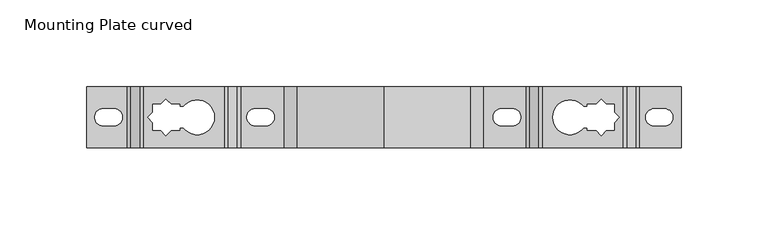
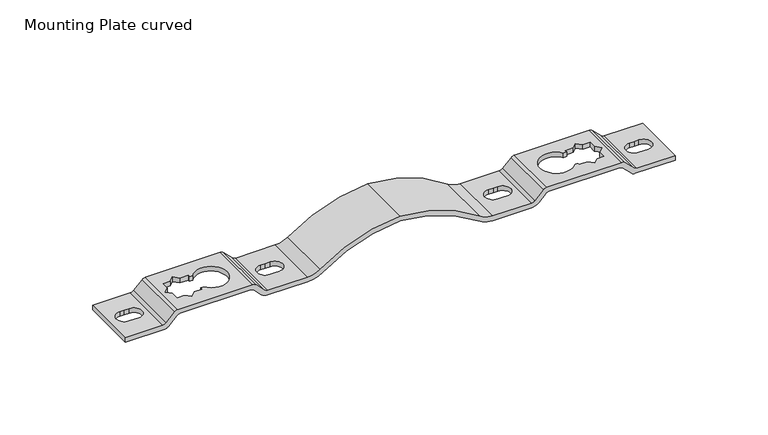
"""IFC4 building model written with IfcOpenShell, lengths in millimetres: valve geometry, Mounting Plate curved : Superpipe Mounting Plate - 250 mm curved."""

from ifc_helpers import new_model, si_unit, frame, origin, place, context, project, spatial, polyline, circle_curve, source, transform, mapped, element, save
from ifc_brep_helpers import plane_surface, cylinder_surface, revolved_surface, advanced_brep


def mounting_plate_curved_e86a9517(model_context):
    return source(origin(), model_context, "Body", "AdvancedBrep", [
        advanced_brep(
        [(0.0, 0.0, 3.0), (0.0, 0.0, 0.0), (24.5, 0.0, 0.0), (26.6213203, 0.0, 0.8786797), (31.863961, 0.0, 6.1213203), (33.9852814, 0.0, 7.0), (78.0147186, 0.0, 7.0), (80.136039, 0.0, 6.1213203), (84.5, 0.0, 1.7573593), (88.7426407, 0.0, 0.0), (113.5579962, 0.0, 0.0), (122.9363512, 0.0, 3.0367266), (171.0, 0.0, 19.9960509), (219.0636488, 0.0, 3.0367266), (228.4420038, 0.0, 0.0), (252.7573593, 0.0, 0.0), (257.0, 0.0, 1.7573593), (261.363961, 0.0, 6.1213203), (263.4852814, 0.0, 7.0), (307.5147186, 0.0, 7.0), (309.636039, 0.0, 6.1213203), (314.8786797, 0.0, 0.8786797), (317.0, 0.0, 0.0), (342.0, 0.0, 0.0), (342.0, 0.0, 3.0), (318.2426407, 0.0, 3.0), (316.1213203, 0.0, 3.8786797), (310.8786797, 0.0, 9.1213203), (308.7573593, 0.0, 10.0), (262.2426407, 0.0, 10.0), (260.1213203, 0.0, 9.1213203), (254.8786797, 0.0, 3.8786797), (252.7573593, 0.0, 3.0), (228.4420038, 0.0, 3.0), (220.8220904, 0.0, 5.4673403), (171.0, 0.0, 23.0), (121.1779096, 0.0, 5.4673403), (113.5579962, 0.0, 3.0), (88.7426407, 0.0, 3.0), (86.6213203, 0.0, 3.8786797), (81.3786797, 0.0, 9.1213203), (79.2573593, 0.0, 10.0), (32.7426407, 0.0, 10.0), (30.6213203, 0.0, 9.1213203), (25.3786797, 0.0, 3.8786797), (23.2573593, 0.0, 3.0), (0.0, 35.0, 3.0), (23.2573593, 35.0, 3.0), (25.3786797, 35.0, 3.8786797), (30.6213203, 35.0, 9.1213203), (32.7426407, 35.0, 10.0), (79.2573593, 35.0, 10.0), (81.3786797, 35.0, 9.1213203), (86.6213203, 35.0, 3.8786797), (88.7426407, 35.0, 3.0), (113.5579962, 35.0, 3.0), (121.1779096, 35.0, 5.4673403), (171.0, 35.0, 23.0), (220.8220904, 35.0, 5.4673403), (228.4420038, 35.0, 3.0), (252.7573593, 35.0, 3.0), (254.8786797, 35.0, 3.8786797), (260.1213203, 35.0, 9.1213203), (262.2426407, 35.0, 10.0), (308.7573593, 35.0, 10.0), (310.8786797, 35.0, 9.1213203), (316.1213203, 35.0, 3.8786797), (318.2426407, 35.0, 3.0), (342.0, 35.0, 3.0), (342.0, 35.0, 0.0), (317.0, 35.0, 0.0), (314.8786797, 35.0, 0.8786797), (309.636039, 35.0, 6.1213203), (307.5147186, 35.0, 7.0), (263.4852814, 35.0, 7.0), (261.363961, 35.0, 6.1213203), (257.0, 35.0, 1.7573593), (252.7573593, 35.0, 0.0), (228.4420038, 35.0, 0.0), (219.0636488, 35.0, 3.0367266), (171.0, 35.0, 19.9960509), (122.9363512, 35.0, 3.0367266), (113.5579962, 35.0, 0.0), (88.7426407, 35.0, 0.0), (84.5, 35.0, 1.7573593), (80.136039, 35.0, 6.1213203), (78.0147186, 35.0, 7.0), (33.9852814, 35.0, 7.0), (31.863961, 35.0, 6.1213203), (26.6213203, 35.0, 0.8786797), (24.5, 35.0, 0.0), (0.0, 35.0, 0.0), (9.4921718, 22.5347729, 0.0), (9.4921718, 12.5504293, 0.0), (12.4921718, 12.5504293, 0.0), (15.4921718, 12.5504293, 0.0), (15.4921718, 22.5347729, 0.0), (12.4921718, 22.5347729, 0.0), (38.0, 25.0, 7.0), (38.0, 20.5, 7.0), (35.0, 17.5, 7.0), (38.0, 14.5, 7.0), (38.0, 9.9308526, 7.0), (42.4308572, 9.9308526, 7.0), (45.4308572, 6.9652271, 7.0), (48.4308572, 10.0, 7.0), (53.4308572, 10.0, 7.0), (53.4308572, 11.5, 7.0), (55.4343797, 11.5, 7.0), (55.4343797, 23.5, 7.0), (53.4308572, 23.5, 7.0), (53.4308572, 25.0, 7.0), (48.4308572, 25.0, 7.0), (45.4308572, 27.9652271, 7.0), (42.5, 25.0, 7.0), (97.0, 22.5347729, 0.0), (97.0, 12.6008585, 0.0), (100.0, 12.6008585, 0.0), (103.0330428, 12.6008585, 0.0), (103.0330428, 22.5347729, 0.0), (100.0, 22.5347729, 0.0), (244.75, 12.5, 0.0), (244.75, 22.5, 0.0), (241.75, 22.5, 0.0), (238.75, 22.5, 0.0), (238.75, 12.5, 0.0), (241.75, 12.5, 0.0), (303.4573426, 20.5, 7.0), (303.4573426, 25.0, 7.0), (298.9573426, 25.0, 7.0), (296.0264854, 27.9652271, 7.0), (293.0264854, 25.0, 7.0), (288.0264854, 25.0, 7.0), (288.0264854, 23.5, 7.0), (286.022963, 23.5, 7.0), (286.022963, 11.5, 7.0), (288.0264854, 11.5, 7.0), (288.0264854, 10.0, 7.0), (293.0264854, 10.0, 7.0), (296.0264854, 6.9652271, 7.0), (299.0264854, 9.9308526, 7.0), (303.4573426, 9.9308526, 7.0), (303.4573426, 14.5, 7.0), (306.4573426, 17.5, 7.0), (332.4243561, 12.5504293, 0.0), (332.4243561, 22.3991415, 0.0), (329.4243561, 22.3991415, 0.0), (326.4243561, 22.3991415, 0.0), (326.4243561, 12.5504293, 0.0), (329.4243561, 12.5504293, 0.0), (332.4243561, 22.3991415, 3.0), (332.4243561, 12.5504293, 3.0), (329.4243561, 12.5504293, 3.0), (326.4243561, 12.5504293, 3.0), (326.4243561, 22.3991415, 3.0), (329.4243561, 22.3991415, 3.0), (303.4573426, 25.0, 10.0), (303.4573426, 20.5, 10.0), (306.4573426, 17.5, 10.0), (303.4573426, 14.5, 10.0), (303.4573426, 9.9308526, 10.0), (299.0264854, 9.9308526, 10.0), (296.0264854, 6.9652271, 10.0), (293.0264854, 10.0, 10.0), (288.0264854, 10.0, 10.0), (288.0264854, 11.5, 10.0), (286.022963, 11.5, 10.0), (286.022963, 23.5, 10.0), (288.0264854, 23.5, 10.0), (288.0264854, 25.0, 10.0), (293.0264854, 25.0, 10.0), (296.0264854, 27.9652271, 10.0), (298.9573426, 25.0, 10.0), (244.75, 22.5, 3.0), (244.75, 12.5, 3.0), (241.75, 12.5, 3.0), (238.75, 12.5, 3.0), (238.75, 22.5, 3.0), (241.75, 22.5, 3.0), (97.0, 12.6008585, 3.0), (97.0, 22.5347729, 3.0), (100.0, 22.5347729, 3.0), (103.0330428, 22.5347729, 3.0), (103.0330428, 12.6008585, 3.0), (100.0, 12.6008585, 3.0), (38.0, 20.5, 10.0), (38.0, 25.0, 10.0), (42.5, 25.0, 10.0), (45.4308572, 27.9652271, 10.0), (48.4308572, 25.0, 10.0), (53.4308572, 25.0, 10.0), (53.4308572, 23.5, 10.0), (55.4343797, 23.5, 10.0), (55.4343797, 11.5, 10.0), (53.4308572, 11.5, 10.0), (53.4308572, 10.0, 10.0), (48.4308572, 10.0, 10.0), (45.4308572, 6.9652271, 10.0), (42.4308572, 9.9308526, 10.0), (38.0, 9.9308526, 10.0), (38.0, 14.5, 10.0), (35.0, 17.5, 10.0), (9.4921718, 12.5504293, 3.0), (9.4921718, 22.5347729, 3.0), (12.4921718, 22.5347729, 3.0), (15.4921718, 22.5347729, 3.0), (15.4921718, 12.5504293, 3.0), (12.4921718, 12.5504293, 3.0)],
        [
            (0, 1),
            (1, 2),
            (2, 3, circle_curve(frame((24.5, 0.0, 3.0), z_axis=(0.0, -1.0, 0.0), x_axis=(1.0, 0.0, 0.0)), 3.0)),
            (3, 4),
            (4, 5, circle_curve(frame((33.9852814, 0.0, 4.0), z_axis=(0.0, 1.0, 0.0), x_axis=(1.0, 0.0, 0.0)), 3.0)),
            (5, 6),
            (6, 7, circle_curve(frame((78.0147186, 0.0, 4.0), z_axis=(0.0, 1.0, 0.0), x_axis=(1.0, 0.0, 0.0)), 3.0)),
            (7, 8),
            (8, 9, circle_curve(frame((88.7426407, 0.0, 6.0), z_axis=(0.0, -1.0, 0.0), x_axis=(1.0, 0.0, 0.0)), 6.0)),
            (9, 10),
            (10, 11, circle_curve(frame((113.5579962, 0.0, 16.0), z_axis=(0.0, -1.0, 0.0), x_axis=(1.0, 0.0, 0.0)), 16.0)),
            (11, 12, circle_curve(frame((175.689598, 0.0, -69.8816864), z_axis=(0.0, 1.0, 0.0), x_axis=(1.0, 0.0, 0.0)), 90.0)),
            (12, 13, circle_curve(frame((166.310402, 0.0, -69.8816864), z_axis=(0.0, 1.0, 0.0), x_axis=(1.0, 0.0, 0.0)), 90.0)),
            (13, 14, circle_curve(frame((228.4420038, 0.0, 16.0), z_axis=(0.0, -1.0, 0.0), x_axis=(1.0, 0.0, 0.0)), 16.0)),
            (14, 15),
            (15, 16, circle_curve(frame((252.7573593, 0.0, 6.0), z_axis=(0.0, -1.0, 0.0), x_axis=(1.0, 0.0, 0.0)), 6.0)),
            (16, 17),
            (17, 18, circle_curve(frame((263.4852814, 0.0, 4.0), z_axis=(0.0, 1.0, 0.0), x_axis=(1.0, 0.0, 0.0)), 3.0)),
            (18, 19),
            (19, 20, circle_curve(frame((307.5147186, 0.0, 4.0), z_axis=(0.0, 1.0, 0.0), x_axis=(1.0, 0.0, 0.0)), 3.0)),
            (20, 21),
            (21, 22, circle_curve(frame((317.0, 0.0, 3.0), z_axis=(0.0, -1.0, 0.0), x_axis=(1.0, 0.0, 0.0)), 3.0)),
            (22, 23),
            (23, 24),
            (24, 25),
            (25, 26, circle_curve(frame((318.2426407, 0.0, 6.0), z_axis=(0.0, 1.0, 0.0), x_axis=(1.0, 0.0, 0.0)), 3.0)),
            (26, 27),
            (27, 28, circle_curve(frame((308.7573593, 0.0, 7.0), z_axis=(0.0, -1.0, 0.0), x_axis=(1.0, 0.0, 0.0)), 3.0)),
            (28, 29),
            (29, 30, circle_curve(frame((262.2426407, 0.0, 7.0), z_axis=(0.0, -1.0, 0.0), x_axis=(1.0, 0.0, 0.0)), 3.0)),
            (30, 31),
            (31, 32, circle_curve(frame((252.7573593, 0.0, 6.0), z_axis=(0.0, 1.0, 0.0), x_axis=(1.0, 0.0, 0.0)), 3.0)),
            (32, 33),
            (33, 34, circle_curve(frame((228.4420038, 0.0, 16.0), z_axis=(0.0, 1.0, 0.0), x_axis=(1.0, 0.0, 0.0)), 13.0)),
            (34, 35, circle_curve(frame((166.310402, 0.0, -69.8816864), z_axis=(0.0, -1.0, 0.0), x_axis=(1.0, 0.0, 0.0)), 93.0)),
            (35, 36, circle_curve(frame((175.689598, 0.0, -69.8816864), z_axis=(0.0, -1.0, 0.0), x_axis=(1.0, 0.0, 0.0)), 93.0)),
            (36, 37, circle_curve(frame((113.5579962, 0.0, 16.0), z_axis=(0.0, 1.0, 0.0), x_axis=(1.0, 0.0, 0.0)), 13.0)),
            (37, 38),
            (38, 39, circle_curve(frame((88.7426407, 0.0, 6.0), z_axis=(0.0, 1.0, 0.0), x_axis=(1.0, 0.0, 0.0)), 3.0)),
            (39, 40),
            (40, 41, circle_curve(frame((79.2573593, 0.0, 7.0), z_axis=(0.0, -1.0, 0.0), x_axis=(1.0, 0.0, 0.0)), 3.0)),
            (41, 42),
            (42, 43, circle_curve(frame((32.7426407, 0.0, 7.0), z_axis=(0.0, -1.0, 0.0), x_axis=(1.0, 0.0, 0.0)), 3.0)),
            (43, 44),
            (44, 45, circle_curve(frame((23.2573593, 0.0, 6.0), z_axis=(0.0, 1.0, 0.0), x_axis=(1.0, 0.0, 0.0)), 3.0)),
            (45, 0),
            (46, 47),
            (47, 48, circle_curve(frame((23.2573593, 35.0, 6.0), z_axis=(0.0, -1.0, 0.0), x_axis=(1.0, 0.0, 0.0)), 3.0)),
            (48, 49),
            (49, 50, circle_curve(frame((32.7426407, 35.0, 7.0), z_axis=(0.0, 1.0, 0.0), x_axis=(1.0, 0.0, 0.0)), 3.0)),
            (50, 51),
            (51, 52, circle_curve(frame((79.2573593, 35.0, 7.0), z_axis=(0.0, 1.0, 0.0), x_axis=(1.0, 0.0, 0.0)), 3.0)),
            (52, 53),
            (53, 54, circle_curve(frame((88.7426407, 35.0, 6.0), z_axis=(0.0, -1.0, 0.0), x_axis=(1.0, 0.0, 0.0)), 3.0)),
            (54, 55),
            (55, 56, circle_curve(frame((113.5579962, 35.0, 16.0), z_axis=(0.0, -1.0, 0.0), x_axis=(1.0, 0.0, 0.0)), 13.0)),
            (56, 57, circle_curve(frame((175.689598, 35.0, -69.8816864), z_axis=(0.0, 1.0, 0.0), x_axis=(1.0, 0.0, 0.0)), 93.0)),
            (57, 58, circle_curve(frame((166.310402, 35.0, -69.8816864), z_axis=(0.0, 1.0, 0.0), x_axis=(1.0, 0.0, 0.0)), 93.0)),
            (58, 59, circle_curve(frame((228.4420038, 35.0, 16.0), z_axis=(0.0, -1.0, 0.0), x_axis=(1.0, 0.0, 0.0)), 13.0)),
            (59, 60),
            (60, 61, circle_curve(frame((252.7573593, 35.0, 6.0), z_axis=(0.0, -1.0, 0.0), x_axis=(1.0, 0.0, 0.0)), 3.0)),
            (61, 62),
            (62, 63, circle_curve(frame((262.2426407, 35.0, 7.0), z_axis=(0.0, 1.0, 0.0), x_axis=(1.0, 0.0, 0.0)), 3.0)),
            (63, 64),
            (64, 65, circle_curve(frame((308.7573593, 35.0, 7.0), z_axis=(0.0, 1.0, 0.0), x_axis=(1.0, 0.0, 0.0)), 3.0)),
            (65, 66),
            (66, 67, circle_curve(frame((318.2426407, 35.0, 6.0), z_axis=(0.0, -1.0, 0.0), x_axis=(1.0, 0.0, 0.0)), 3.0)),
            (67, 68),
            (68, 69),
            (69, 70),
            (70, 71, circle_curve(frame((317.0, 35.0, 3.0), z_axis=(0.0, 1.0, 0.0), x_axis=(1.0, 0.0, 0.0)), 3.0)),
            (71, 72),
            (72, 73, circle_curve(frame((307.5147186, 35.0, 4.0), z_axis=(0.0, -1.0, 0.0), x_axis=(1.0, 0.0, 0.0)), 3.0)),
            (73, 74),
            (74, 75, circle_curve(frame((263.4852814, 35.0, 4.0), z_axis=(0.0, -1.0, 0.0), x_axis=(1.0, 0.0, 0.0)), 3.0)),
            (75, 76),
            (76, 77, circle_curve(frame((252.7573593, 35.0, 6.0), z_axis=(0.0, 1.0, 0.0), x_axis=(1.0, 0.0, 0.0)), 6.0)),
            (77, 78),
            (78, 79, circle_curve(frame((228.4420038, 35.0, 16.0), z_axis=(0.0, 1.0, 0.0), x_axis=(1.0, 0.0, 0.0)), 16.0)),
            (79, 80, circle_curve(frame((166.310402, 35.0, -69.8816864), z_axis=(0.0, -1.0, 0.0), x_axis=(1.0, 0.0, 0.0)), 90.0)),
            (80, 81, circle_curve(frame((175.689598, 35.0, -69.8816864), z_axis=(0.0, -1.0, 0.0), x_axis=(1.0, 0.0, 0.0)), 90.0)),
            (81, 82, circle_curve(frame((113.5579962, 35.0, 16.0), z_axis=(0.0, 1.0, 0.0), x_axis=(1.0, 0.0, 0.0)), 16.0)),
            (82, 83),
            (83, 84, circle_curve(frame((88.7426407, 35.0, 6.0), z_axis=(0.0, 1.0, 0.0), x_axis=(1.0, 0.0, 0.0)), 6.0)),
            (84, 85),
            (85, 86, circle_curve(frame((78.0147186, 35.0, 4.0), z_axis=(0.0, -1.0, 0.0), x_axis=(1.0, 0.0, 0.0)), 3.0)),
            (86, 87),
            (87, 88, circle_curve(frame((33.9852814, 35.0, 4.0), z_axis=(0.0, -1.0, 0.0), x_axis=(1.0, 0.0, 0.0)), 3.0)),
            (88, 89),
            (89, 90, circle_curve(frame((24.5, 35.0, 3.0), z_axis=(0.0, 1.0, 0.0), x_axis=(1.0, 0.0, 0.0)), 3.0)),
            (90, 91),
            (91, 46),
            (0, 46),
            (91, 1),
            (90, 2),
            (92, 93, circle_curve(frame((9.4921718, 17.5426011, 0.0), z_axis=(0.0, 0.0, 1.0), x_axis=(1.0, 0.0, 0.0)), 4.9921718)),
            (93, 94),
            (94, 95),
            (95, 96, circle_curve(frame((15.4921718, 17.5426011, 0.0), z_axis=(0.0, 0.0, 1.0), x_axis=(1.0, 0.0, 0.0)), 4.9921718)),
            (96, 97),
            (97, 92),
            (89, 3),
            (88, 4),
            (87, 5),
            (86, 6),
            (98, 99),
            (99, 100),
            (100, 101),
            (101, 102),
            (102, 103),
            (103, 104),
            (104, 105),
            (105, 106),
            (106, 107),
            (107, 108),
            (108, 109, circle_curve(frame((63.4095897, 17.5, 7.0), z_axis=(0.0, 0.0, 1.0), x_axis=(-1.0, 0.0, 0.0)), 9.9801791)),
            (109, 110),
            (110, 111),
            (111, 112),
            (112, 113),
            (113, 114),
            (114, 98),
            (85, 7),
            (84, 8),
            (83, 9),
            (82, 10),
            (115, 116, circle_curve(frame((97.0, 17.5678157, 0.0), z_axis=(0.0, 0.0, 1.0), x_axis=(1.0, 0.0, 0.0)), 4.9669572)),
            (116, 117),
            (117, 118),
            (118, 119, circle_curve(frame((103.0330428, 17.5678157, 0.0), z_axis=(0.0, 0.0, 1.0), x_axis=(1.0, 0.0, 0.0)), 4.9669572)),
            (119, 120),
            (120, 115),
            (81, 11),
            (80, 12),
            (79, 13),
            (78, 14),
            (77, 15),
            (121, 122, circle_curve(frame((244.75, 17.5, 0.0), z_axis=(0.0, 0.0, 1.0), x_axis=(-1.0, 0.0, 0.0)), 5.0)),
            (122, 123),
            (123, 124),
            (124, 125, circle_curve(frame((238.75, 17.5, 0.0), z_axis=(0.0, 0.0, 1.0), x_axis=(-1.0, 0.0, 0.0)), 5.0)),
            (125, 126),
            (126, 121),
            (76, 16),
            (75, 17),
            (74, 18),
            (73, 19),
            (127, 128),
            (128, 129),
            (129, 130),
            (130, 131),
            (131, 132),
            (132, 133),
            (133, 134),
            (134, 135, circle_curve(frame((278.0477529, 17.5, 7.0), z_axis=(0.0, 0.0, 1.0), x_axis=(1.0, 0.0, 0.0)), 9.9801791)),
            (135, 136),
            (136, 137),
            (137, 138),
            (138, 139),
            (139, 140),
            (140, 141),
            (141, 142),
            (142, 143),
            (143, 127),
            (72, 20),
            (71, 21),
            (70, 22),
            (69, 23),
            (144, 145, circle_curve(frame((332.4243561, 17.4747854, 0.0), z_axis=(0.0, 0.0, 1.0), x_axis=(-1.0, 0.0, 0.0)), 4.9243561)),
            (145, 146),
            (146, 147),
            (147, 148, circle_curve(frame((326.4243561, 17.4747854, 0.0), z_axis=(0.0, 0.0, 1.0), x_axis=(-1.0, 0.0, 0.0)), 4.9243561)),
            (148, 149),
            (149, 144),
            (68, 24),
            (67, 25),
            (150, 151, circle_curve(frame((332.4243561, 17.4747854, 3.0), z_axis=(0.0, 0.0, -1.0), x_axis=(-1.0, 0.0, 0.0)), 4.9243561)),
            (151, 152),
            (152, 153),
            (153, 154, circle_curve(frame((326.4243561, 17.4747854, 3.0), z_axis=(0.0, 0.0, -1.0), x_axis=(-1.0, 0.0, 0.0)), 4.9243561)),
            (154, 155),
            (155, 150),
            (66, 26),
            (65, 27),
            (64, 28),
            (63, 29),
            (156, 157),
            (157, 158),
            (158, 159),
            (159, 160),
            (160, 161),
            (161, 162),
            (162, 163),
            (163, 164),
            (164, 165),
            (165, 166),
            (166, 167, circle_curve(frame((278.0477529, 17.5, 10.0), z_axis=(0.0, 0.0, -1.0), x_axis=(1.0, 0.0, 0.0)), 9.9801791)),
            (167, 168),
            (168, 169),
            (169, 170),
            (170, 171),
            (171, 172),
            (172, 156),
            (62, 30),
            (61, 31),
            (60, 32),
            (59, 33),
            (173, 174, circle_curve(frame((244.75, 17.5, 3.0), z_axis=(0.0, 0.0, -1.0), x_axis=(-1.0, 0.0, 0.0)), 5.0)),
            (174, 175),
            (175, 176),
            (176, 177, circle_curve(frame((238.75, 17.5, 3.0), z_axis=(0.0, 0.0, -1.0), x_axis=(-1.0, 0.0, 0.0)), 5.0)),
            (177, 178),
            (178, 173),
            (58, 34),
            (57, 35),
            (56, 36),
            (55, 37),
            (54, 38),
            (179, 180, circle_curve(frame((97.0, 17.5678157, 3.0), z_axis=(0.0, 0.0, -1.0), x_axis=(1.0, 0.0, 0.0)), 4.9669572)),
            (180, 181),
            (181, 182),
            (182, 183, circle_curve(frame((103.0330428, 17.5678157, 3.0), z_axis=(0.0, 0.0, -1.0), x_axis=(1.0, 0.0, 0.0)), 4.9669572)),
            (183, 184),
            (184, 179),
            (53, 39),
            (52, 40),
            (51, 41),
            (50, 42),
            (185, 186),
            (186, 187),
            (187, 188),
            (188, 189),
            (189, 190),
            (190, 191),
            (191, 192),
            (192, 193, circle_curve(frame((63.4095897, 17.5, 10.0), z_axis=(0.0, 0.0, -1.0), x_axis=(-1.0, 0.0, 0.0)), 9.9801791)),
            (193, 194),
            (194, 195),
            (195, 196),
            (196, 197),
            (197, 198),
            (198, 199),
            (199, 200),
            (200, 201),
            (201, 185),
            (49, 43),
            (48, 44),
            (47, 45),
            (202, 203, circle_curve(frame((9.4921718, 17.5426011, 3.0), z_axis=(0.0, 0.0, -1.0), x_axis=(1.0, 0.0, 0.0)), 4.9921718)),
            (203, 204),
            (204, 205),
            (205, 206, circle_curve(frame((15.4921718, 17.5426011, 3.0), z_axis=(0.0, 0.0, -1.0), x_axis=(1.0, 0.0, 0.0)), 4.9921718)),
            (206, 207),
            (207, 202),
            (202, 93),
            (92, 203),
            (207, 94),
            (206, 95),
            (205, 96),
            (204, 97),
            (185, 99),
            (98, 186),
            (114, 187),
            (113, 188),
            (112, 189),
            (111, 190),
            (191, 110),
            (109, 192),
            (194, 107),
            (106, 195),
            (105, 196),
            (104, 197),
            (103, 198),
            (102, 199),
            (101, 200),
            (100, 201),
            (108, 193),
            (179, 116),
            (115, 180),
            (184, 117),
            (183, 118),
            (182, 119),
            (181, 120),
            (173, 122),
            (121, 174),
            (126, 175),
            (125, 176),
            (124, 177),
            (123, 178),
            (156, 128),
            (127, 157),
            (172, 129),
            (171, 130),
            (170, 131),
            (169, 132),
            (167, 134),
            (133, 168),
            (164, 137),
            (136, 165),
            (163, 138),
            (162, 139),
            (161, 140),
            (160, 141),
            (159, 142),
            (158, 143),
            (166, 135),
            (150, 145),
            (144, 151),
            (149, 152),
            (148, 153),
            (147, 154),
            (146, 155),
        ],
        [
            plane_surface(frame((0.0, 0.0, 0.0), z_axis=(0.0, -1.0, 0.0), x_axis=(0.0, 0.0, -1.0))),
            plane_surface(frame((0.0, 35.0, 0.0), z_axis=(0.0, 1.0, 0.0), x_axis=(0.0, 0.0, 1.0))),
            plane_surface(frame((0.0, 0.0, 3.0), z_axis=(-1.0, 0.0, 0.0), x_axis=(0.0, 1.0, 0.0))),
            plane_surface(frame((0.0, 0.0, 0.0), z_axis=(8.576395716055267e-12, 0.0, -1.0), x_axis=(0.0, 1.0, 0.0))),
            cylinder_surface(frame((24.5, 35.0, 3.0), z_axis=(0.0, -1.0, 0.0), x_axis=(1.0, 0.0, 0.0)), 3.0),
            plane_surface(frame((26.6213203, 0.0, 0.8786797), z_axis=(0.7071067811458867, 0.0, -0.7071067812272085), x_axis=(0.0, 1.0, 0.0))),
            revolved_surface(polyline([(36.9852814, 35.0, 4.0), (36.9852814, 0.0, 4.0)]), (33.9852814, 35.0, 4.0), (0.0, 1.0, 0.0)),
            plane_surface(frame((33.9852814, 0.0, 7.0), z_axis=(2.818073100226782e-12, 0.0, -1.0), x_axis=(0.0, 1.0, 0.0))),
            revolved_surface(polyline([(81.0147186, 35.0, 4.0), (81.0147186, 0.0, 4.0)]), (78.0147186, 35.0, 4.0), (0.0, 1.0, 0.0)),
            plane_surface(frame((80.136039, 0.0, 6.1213203), z_axis=(-0.7071067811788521, 0.0, -0.7071067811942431), x_axis=(0.0, 1.0, 0.0))),
            cylinder_surface(frame((88.7426407, 35.0, 6.0), z_axis=(0.0, -1.0, 0.0), x_axis=(1.0, 0.0, 0.0)), 6.0),
            plane_surface(frame((88.7426407, 0.0, 0.0), z_axis=(1.7511042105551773e-12, 0.0, -1.0), x_axis=(0.0, 1.0, 0.0))),
            cylinder_surface(frame((113.5579962, 35.0, 16.0), z_axis=(0.0, -1.0, 0.0), x_axis=(1.0, 0.0, 0.0)), 16.0),
            revolved_surface(polyline([(265.689598, 35.0, -69.8816864), (265.689598, 0.0, -69.8816864)]), (175.689598, 35.0, -69.8816864), (0.0, 1.0, 0.0)),
            revolved_surface(polyline([(256.310402, 35.0, -69.8816864), (256.310402, 0.0, -69.8816864)]), (166.310402, 35.0, -69.8816864), (0.0, 1.0, 0.0)),
            cylinder_surface(frame((228.4420038, 35.0, 16.0), z_axis=(0.0, -1.0, 0.0), x_axis=(1.0, 0.0, 0.0)), 16.0),
            plane_surface(frame((228.4420038, 0.0, 0.0), z_axis=(8.526881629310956e-12, 0.0, -1.0), x_axis=(0.0, 1.0, 0.0))),
            cylinder_surface(frame((252.7573593, 35.0, 6.0), z_axis=(0.0, -1.0, 0.0), x_axis=(1.0, 0.0, 0.0)), 6.0),
            plane_surface(frame((257.0, 0.0, 1.7573593), z_axis=(0.7071067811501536, 0.0, -0.7071067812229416), x_axis=(0.0, 1.0, 0.0))),
            revolved_surface(polyline([(266.4852814, 35.0, 4.0), (266.4852814, 0.0, 4.0)]), (263.4852814, 35.0, 4.0), (0.0, 1.0, 0.0)),
            plane_surface(frame((263.4852814, 0.0, 7.0), z_axis=(1.103038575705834e-12, 0.0, -1.0), x_axis=(0.0, 1.0, 0.0))),
            revolved_surface(polyline([(310.5147186, 35.0, 4.0), (310.5147186, 0.0, 4.0)]), (307.5147186, 35.0, 4.0), (0.0, 1.0, 0.0)),
            plane_surface(frame((309.636039, 0.0, 6.1213203), z_axis=(-0.7071067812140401, 0.0, -0.7071067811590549), x_axis=(0.0, 1.0, 0.0))),
            cylinder_surface(frame((317.0, 35.0, 3.0), z_axis=(0.0, -1.0, 0.0), x_axis=(1.0, 0.0, 0.0)), 3.0),
            plane_surface(frame((317.0, 0.0, 0.0), z_axis=(0.0, 0.0, -1.0), x_axis=(0.0, 1.0, 0.0))),
            plane_surface(frame((342.0, 0.0, 0.0), z_axis=(1.0, 0.0, 0.0), x_axis=(0.0, 1.0, 0.0))),
            plane_surface(frame((342.0, 0.0, 3.0), z_axis=(0.0, 0.0, 1.0), x_axis=(0.0, 1.0, 0.0))),
            revolved_surface(polyline([(321.2426407, 35.0, 6.0), (321.2426407, 0.0, 6.0)]), (318.2426407, 35.0, 6.0), (0.0, 1.0, 0.0)),
            plane_surface(frame((316.1213203, 0.0, 3.8786797), z_axis=(0.7071067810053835, 0.0, 0.7071067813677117), x_axis=(0.0, 1.0, 0.0))),
            cylinder_surface(frame((308.7573593, 35.0, 7.0), z_axis=(0.0, -1.0, 0.0), x_axis=(1.0, 0.0, 0.0)), 3.0),
            plane_surface(frame((308.7573593, 0.0, 10.0), z_axis=(0.0, 0.0, 1.0), x_axis=(0.0, 1.0, 0.0))),
            cylinder_surface(frame((262.2426407, 35.0, 7.0), z_axis=(0.0, -1.0, 0.0), x_axis=(1.0, 0.0, 0.0)), 3.0),
            plane_surface(frame((260.1213203, 0.0, 9.1213203), z_axis=(-0.7071067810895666, 0.0, 0.7071067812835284), x_axis=(0.0, 1.0, 0.0))),
            revolved_surface(polyline([(255.7573593, 35.0, 6.0), (255.7573593, 0.0, 6.0)]), (252.7573593, 35.0, 6.0), (0.0, 1.0, 0.0)),
            plane_surface(frame((252.7573593, 0.0, 3.0), z_axis=(5.347942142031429e-12, 0.0, 1.0), x_axis=(0.0, 1.0, 0.0))),
            revolved_surface(polyline([(241.4420038, 35.0, 16.0), (241.4420038, 0.0, 16.0)]), (228.4420038, 35.0, 16.0), (0.0, 1.0, 0.0)),
            cylinder_surface(frame((166.310402, 35.0, -69.8816864), z_axis=(0.0, -1.0, 0.0), x_axis=(1.0, 0.0, 0.0)), 93.0),
            cylinder_surface(frame((175.689598, 35.0, -69.8816864), z_axis=(0.0, -1.0, 0.0), x_axis=(1.0, 0.0, 0.0)), 93.0),
            revolved_surface(polyline([(126.5579962, 35.0, 16.0), (126.5579962, 0.0, 16.0)]), (113.5579962, 35.0, 16.0), (0.0, 1.0, 0.0)),
            plane_surface(frame((113.5579962, 0.0, 3.0), z_axis=(-7.576853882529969e-12, 0.0, 1.0), x_axis=(0.0, 1.0, 0.0))),
            revolved_surface(polyline([(91.7426407, 35.0, 6.0), (91.7426407, 0.0, 6.0)]), (88.7426407, 35.0, 6.0), (0.0, 1.0, 0.0)),
            plane_surface(frame((86.6213203, 0.0, 3.8786797), z_axis=(0.7071067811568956, 0.0, 0.7071067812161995), x_axis=(0.0, 1.0, 0.0))),
            cylinder_surface(frame((79.2573593, 35.0, 7.0), z_axis=(0.0, -1.0, 0.0), x_axis=(1.0, 0.0, 0.0)), 3.0),
            plane_surface(frame((79.2573593, 0.0, 10.0), z_axis=(0.0, 0.0, 1.0), x_axis=(0.0, 1.0, 0.0))),
            cylinder_surface(frame((32.7426407, 35.0, 7.0), z_axis=(0.0, -1.0, 0.0), x_axis=(1.0, 0.0, 0.0)), 3.0),
            plane_surface(frame((30.6213203, 0.0, 9.1213203), z_axis=(-0.7071067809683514, 0.0, 0.7071067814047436), x_axis=(0.0, 1.0, 0.0))),
            revolved_surface(polyline([(26.2573593, 35.0, 6.0), (26.2573593, 0.0, 6.0)]), (23.2573593, 35.0, 6.0), (0.0, 1.0, 0.0)),
            plane_surface(frame((23.2573593, 0.0, 3.0), z_axis=(0.0, 0.0, 1.0), x_axis=(0.0, 1.0, 0.0))),
            revolved_surface(polyline([(14.484343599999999, 17.5426011, 3.0), (14.484343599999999, 17.5426011, 0.0)]), (9.4921718, 17.5426011, 0.0), (0.0, 0.0, 1.0)),
            plane_surface(frame((9.4921718, 12.5504293, 3.0), z_axis=(0.0, 1.0, 0.0), x_axis=(0.0, 0.0, -1.0))),
            plane_surface(frame((12.4921718, 12.5504293, 3.0), z_axis=(0.0, 1.0, 0.0), x_axis=(0.0, 0.0, -1.0))),
            revolved_surface(polyline([(20.4843436, 17.5426011, 3.0), (20.4843436, 17.5426011, 0.0)]), (15.4921718, 17.5426011, 0.0), (0.0, 0.0, 1.0)),
            plane_surface(frame((15.4921718, 22.5347729, 3.0), z_axis=(0.0, -1.0, 0.0), x_axis=(0.0, 0.0, -1.0))),
            plane_surface(frame((12.4921718, 22.5347729, 3.0), z_axis=(0.0, -1.0, 0.0), x_axis=(0.0, 0.0, -1.0))),
            plane_surface(frame((38.0, 25.0, 10.0), z_axis=(1.0, 0.0, 0.0), x_axis=(0.0, 0.0, -1.0))),
            plane_surface(frame((42.5, 25.0, 10.0), z_axis=(0.0, -1.0, 0.0), x_axis=(0.0, 0.0, -1.0))),
            plane_surface(frame((45.4308572, 27.9652271, 10.0), z_axis=(0.7112166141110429, -0.7029729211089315, 0.0), x_axis=(0.0, 0.0, -1.0))),
            plane_surface(frame((48.4308572, 25.0, 10.0), z_axis=(-0.7029729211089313, -0.7112166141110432, 0.0), x_axis=(0.0, 0.0, -1.0))),
            plane_surface(frame((53.4308572, 25.0, 10.0), z_axis=(0.0, -1.0, 0.0), x_axis=(0.0, 0.0, -1.0))),
            plane_surface(frame((55.4343797, 23.5, 10.0), z_axis=(0.0, -1.0, 0.0), x_axis=(0.0, 0.0, -1.0))),
            plane_surface(frame((53.4308572, 10.0, 10.0), z_axis=(-1.0, 0.0, 0.0), x_axis=(0.0, 0.0, -1.0))),
            plane_surface(frame((48.4308572, 10.0, 10.0), z_axis=(0.0, 1.0, 0.0), x_axis=(0.0, 0.0, -1.0))),
            plane_surface(frame((45.4308572, 6.9652271, 10.0), z_axis=(-0.7111693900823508, 0.703020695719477, 0.0), x_axis=(0.0, 0.0, -1.0))),
            plane_surface(frame((42.4308572, 9.9308526, 10.0), z_axis=(0.7030206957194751, 0.7111693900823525, 0.0), x_axis=(0.0, 0.0, -1.0))),
            plane_surface(frame((38.0, 9.9308526, 10.0), z_axis=(0.0, 1.0, 0.0), x_axis=(0.0, 0.0, -1.0))),
            plane_surface(frame((38.0, 14.5, 10.0), z_axis=(1.0, 0.0, 0.0), x_axis=(0.0, 0.0, -1.0))),
            plane_surface(frame((35.0, 17.5, 10.0), z_axis=(0.707106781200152, 0.7071067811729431, 0.0), x_axis=(0.0, 0.0, -1.0))),
            plane_surface(frame((38.0, 20.5, 10.0), z_axis=(0.7071067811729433, -0.7071067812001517, 0.0), x_axis=(0.0, 0.0, -1.0))),
            plane_surface(frame((53.4308572, 23.5, 10.0), z_axis=(-1.0, 0.0, 0.0), x_axis=(0.0, 0.0, -1.0))),
            revolved_surface(polyline([(53.4294106, 17.5, 10.0), (53.4294106, 17.5, 7.0)]), (63.4095897, 17.5, 7.0), (0.0, 0.0, 1.0)),
            plane_surface(frame((53.4308572, 11.5, 10.0), z_axis=(2.082332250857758e-11, 1.0, 0.0), x_axis=(0.0, 0.0, -1.0))),
            revolved_surface(polyline([(101.9669572, 17.5678157, 3.0), (101.9669572, 17.5678157, 0.0)]), (97.0, 17.5678157, 0.0), (0.0, 0.0, 1.0)),
            plane_surface(frame((97.0, 12.6008585, 3.0), z_axis=(0.0, 1.0, 0.0), x_axis=(0.0, 0.0, -1.0))),
            plane_surface(frame((100.0, 12.6008585, 3.0), z_axis=(0.0, 1.0, 0.0), x_axis=(0.0, 0.0, -1.0))),
            revolved_surface(polyline([(108.0, 17.5678157, 3.0), (108.0, 17.5678157, 0.0)]), (103.0330428, 17.5678157, 0.0), (0.0, 0.0, 1.0)),
            plane_surface(frame((103.0330428, 22.5347729, 3.0), z_axis=(0.0, -1.0, 0.0), x_axis=(0.0, 0.0, -1.0))),
            plane_surface(frame((100.0, 22.5347729, 3.0), z_axis=(0.0, -1.0, 0.0), x_axis=(0.0, 0.0, -1.0))),
            revolved_surface(polyline([(239.75, 17.5, 3.0), (239.75, 17.5, 0.0)]), (244.75, 17.5, 0.0), (0.0, 0.0, 1.0)),
            plane_surface(frame((241.75, 12.5, 3.0), z_axis=(0.0, 1.0, 0.0), x_axis=(0.0, 0.0, -1.0))),
            plane_surface(frame((238.75, 12.5, 3.0), z_axis=(0.0, 1.0, 0.0), x_axis=(0.0, 0.0, -1.0))),
            revolved_surface(polyline([(233.75, 17.5, 3.0), (233.75, 17.5, 0.0)]), (238.75, 17.5, 0.0), (0.0, 0.0, 1.0)),
            plane_surface(frame((241.75, 22.5, 3.0), z_axis=(0.0, -1.0, 0.0), x_axis=(0.0, 0.0, -1.0))),
            plane_surface(frame((244.75, 22.5, 3.0), z_axis=(0.0, -1.0, 0.0), x_axis=(0.0, 0.0, -1.0))),
            plane_surface(frame((303.4573426, 20.5, 10.0), z_axis=(-1.0, 0.0, 0.0), x_axis=(0.0, 0.0, -1.0))),
            plane_surface(frame((303.4573426, 25.0, 10.0), z_axis=(0.0, -1.0, 0.0), x_axis=(0.0, 0.0, -1.0))),
            plane_surface(frame((298.9573426, 25.0, 10.0), z_axis=(-0.711216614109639, -0.7029729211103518, 0.0), x_axis=(0.0, 0.0, -1.0))),
            plane_surface(frame((296.0264854, 27.9652271, 10.0), z_axis=(0.7029729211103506, -0.7112166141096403, 0.0), x_axis=(0.0, 0.0, -1.0))),
            plane_surface(frame((293.0264854, 25.0, 10.0), z_axis=(0.0, -1.0, 0.0), x_axis=(0.0, 0.0, -1.0))),
            plane_surface(frame((288.0264854, 23.5, 10.0), z_axis=(0.0, -1.0, 0.0), x_axis=(0.0, 0.0, -1.0))),
            plane_surface(frame((288.0264854, 11.5, 10.0), z_axis=(1.0, 0.0, 0.0), x_axis=(0.0, 0.0, -1.0))),
            plane_surface(frame((288.0264854, 10.0, 10.0), z_axis=(0.0, 1.0, 0.0), x_axis=(0.0, 0.0, -1.0))),
            plane_surface(frame((293.0264854, 10.0, 10.0), z_axis=(0.7111693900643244, 0.7030206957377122, 0.0), x_axis=(0.0, 0.0, -1.0))),
            plane_surface(frame((296.0264854, 6.9652271, 10.0), z_axis=(-0.7030206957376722, 0.7111693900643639, 0.0), x_axis=(0.0, 0.0, -1.0))),
            plane_surface(frame((299.0264854, 9.9308526, 10.0), z_axis=(0.0, 1.0, 0.0), x_axis=(0.0, 0.0, -1.0))),
            plane_surface(frame((303.4573426, 9.9308526, 10.0), z_axis=(-1.0, 0.0, 0.0), x_axis=(0.0, 0.0, -1.0))),
            plane_surface(frame((303.4573426, 14.5, 10.0), z_axis=(-0.7071067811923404, 0.7071067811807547, 0.0), x_axis=(0.0, 0.0, -1.0))),
            plane_surface(frame((306.4573426, 17.5, 10.0), z_axis=(-0.7071067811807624, -0.7071067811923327, 0.0), x_axis=(0.0, 0.0, -1.0))),
            plane_surface(frame((288.0264854, 25.0, 10.0), z_axis=(1.0, 0.0, 0.0), x_axis=(0.0, 0.0, -1.0))),
            revolved_surface(polyline([(288.02793199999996, 17.5, 10.0), (288.02793199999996, 17.5, 7.0)]), (278.0477529, 17.5, 7.0), (0.0, 0.0, 1.0)),
            plane_surface(frame((286.022963, 11.5, 10.0), z_axis=(0.0, 1.0, 0.0), x_axis=(0.0, 0.0, -1.0))),
            revolved_surface(polyline([(327.5, 17.4747854, 3.0), (327.5, 17.4747854, 0.0)]), (332.4243561, 17.4747854, 0.0), (0.0, 0.0, 1.0)),
            plane_surface(frame((329.4243561, 12.5504293, 3.0), z_axis=(0.0, 1.0, 0.0), x_axis=(0.0, 0.0, -1.0))),
            plane_surface(frame((326.4243561, 12.5504293, 3.0), z_axis=(0.0, 1.0, 0.0), x_axis=(0.0, 0.0, -1.0))),
            revolved_surface(polyline([(321.5, 17.4747854, 3.0), (321.5, 17.4747854, 0.0)]), (326.4243561, 17.4747854, 0.0), (0.0, 0.0, 1.0)),
            plane_surface(frame((329.4243561, 22.3991415, 3.0), z_axis=(0.0, -1.0, 0.0), x_axis=(0.0, 0.0, -1.0))),
            plane_surface(frame((332.4243561, 22.3991415, 3.0), z_axis=(0.0, -1.0, 0.0), x_axis=(0.0, 0.0, -1.0))),
        ],
        [
            (0, [[1, 2, 3, 4, 5, 6, 7, 8, 9, 10, 11, 12, 13, 14, 15, 16, 17, 18, 19, 20, 21, 22, 23, 24, 25, 26, 27, 28, 29, 30, 31, 32, 33, 34, 35, 36, 37, 38, 39, 40, 41, 42, 43, 44, 45, 46]]),
            (1, [[47, 48, 49, 50, 51, 52, 53, 54, 55, 56, 57, 58, 59, 60, 61, 62, 63, 64, 65, 66, 67, 68, 69, 70, 71, 72, 73, 74, 75, 76, 77, 78, 79, 80, 81, 82, 83, 84, 85, 86, 87, 88, 89, 90, 91, 92]]),
            (2, [[-1, 93, -92, 94]]),
            (3, [[-2, -94, -91, 95], [96, 97, 98, 99, 100, 101]]),
            (4, [[-3, -95, -90, 102]]),
            (5, [[-4, -102, -89, 103]]),
            (6, [[-5, -103, -88, 104]]),
            (7, [[-6, -104, -87, 105], [106, 107, 108, 109, 110, 111, 112, 113, 114, 115, 116, 117, 118, 119, 120, 121, 122]]),
            (8, [[-7, -105, -86, 123]]),
            (9, [[-8, -123, -85, 124]]),
            (10, [[-9, -124, -84, 125]]),
            (11, [[-10, -125, -83, 126], [127, 128, 129, 130, 131, 132]]),
            (12, [[-11, -126, -82, 133]]),
            (13, [[-12, -133, -81, 134]]),
            (14, [[-13, -134, -80, 135]]),
            (15, [[-14, -135, -79, 136]]),
            (16, [[-15, -136, -78, 137], [138, 139, 140, 141, 142, 143]]),
            (17, [[-16, -137, -77, 144]]),
            (18, [[-17, -144, -76, 145]]),
            (19, [[-18, -145, -75, 146]]),
            (20, [[-19, -146, -74, 147], [148, 149, 150, 151, 152, 153, 154, 155, 156, 157, 158, 159, 160, 161, 162, 163, 164]]),
            (21, [[-20, -147, -73, 165]]),
            (22, [[-21, -165, -72, 166]]),
            (23, [[-22, -166, -71, 167]]),
            (24, [[-23, -167, -70, 168], [169, 170, 171, 172, 173, 174]]),
            (25, [[-24, -168, -69, 175]]),
            (26, [[-25, -175, -68, 176], [177, 178, 179, 180, 181, 182]]),
            (27, [[-26, -176, -67, 183]]),
            (28, [[-27, -183, -66, 184]]),
            (29, [[-28, -184, -65, 185]]),
            (30, [[-29, -185, -64, 186], [187, 188, 189, 190, 191, 192, 193, 194, 195, 196, 197, 198, 199, 200, 201, 202, 203]]),
            (31, [[-30, -186, -63, 204]]),
            (32, [[-31, -204, -62, 205]]),
            (33, [[-32, -205, -61, 206]]),
            (34, [[-33, -206, -60, 207], [208, 209, 210, 211, 212, 213]]),
            (35, [[-34, -207, -59, 214]]),
            (36, [[-35, -214, -58, 215]]),
            (37, [[-36, -215, -57, 216]]),
            (38, [[-37, -216, -56, 217]]),
            (39, [[-38, -217, -55, 218], [219, 220, 221, 222, 223, 224]]),
            (40, [[-39, -218, -54, 225]]),
            (41, [[-40, -225, -53, 226]]),
            (42, [[-41, -226, -52, 227]]),
            (43, [[-42, -227, -51, 228], [229, 230, 231, 232, 233, 234, 235, 236, 237, 238, 239, 240, 241, 242, 243, 244, 245]]),
            (44, [[-43, -228, -50, 246]]),
            (45, [[-44, -246, -49, 247]]),
            (46, [[-45, -247, -48, 248]]),
            (47, [[-46, -248, -47, -93], [249, 250, 251, 252, 253, 254]]),
            (48, [[255, -96, 256, -249]]),
            (49, [[-255, -254, 257, -97]]),
            (50, [[-257, -253, 258, -98]]),
            (51, [[-258, -252, 259, -99]]),
            (52, [[-259, -251, 260, -100]]),
            (53, [[-256, -101, -260, -250]]),
            (54, [[261, -106, 262, -229]]),
            (55, [[-262, -122, 263, -230]]),
            (56, [[-263, -121, 264, -231]]),
            (57, [[-264, -120, 265, -232]]),
            (58, [[-265, -119, 266, -233]]),
            (59, [[267, -117, 268, -235]]),
            (60, [[269, -114, 270, -238]]),
            (61, [[-270, -113, 271, -239]]),
            (62, [[-271, -112, 272, -240]]),
            (63, [[-272, -111, 273, -241]]),
            (64, [[-273, -110, 274, -242]]),
            (65, [[-274, -109, 275, -243]]),
            (66, [[-275, -108, 276, -244]]),
            (67, [[-261, -245, -276, -107]]),
            (68, [[-266, -118, -267, -234]]),
            (69, [[-268, -116, 277, -236]]),
            (70, [[-269, -237, -277, -115]]),
            (71, [[278, -127, 279, -219]]),
            (72, [[-278, -224, 280, -128]]),
            (73, [[-280, -223, 281, -129]]),
            (74, [[-281, -222, 282, -130]]),
            (75, [[-282, -221, 283, -131]]),
            (76, [[-279, -132, -283, -220]]),
            (77, [[284, -138, 285, -208]]),
            (78, [[-285, -143, 286, -209]]),
            (79, [[-286, -142, 287, -210]]),
            (80, [[-287, -141, 288, -211]]),
            (81, [[-288, -140, 289, -212]]),
            (82, [[-284, -213, -289, -139]]),
            (83, [[290, -148, 291, -187]]),
            (84, [[-290, -203, 292, -149]]),
            (85, [[-292, -202, 293, -150]]),
            (86, [[-293, -201, 294, -151]]),
            (87, [[-294, -200, 295, -152]]),
            (88, [[296, -154, 297, -198]]),
            (89, [[298, -157, 299, -195]]),
            (90, [[-298, -194, 300, -158]]),
            (91, [[-300, -193, 301, -159]]),
            (92, [[-301, -192, 302, -160]]),
            (93, [[-302, -191, 303, -161]]),
            (94, [[-303, -190, 304, -162]]),
            (95, [[-304, -189, 305, -163]]),
            (96, [[-291, -164, -305, -188]]),
            (97, [[-295, -199, -297, -153]]),
            (98, [[-296, -197, 306, -155]]),
            (99, [[-299, -156, -306, -196]]),
            (100, [[307, -169, 308, -177]]),
            (101, [[-308, -174, 309, -178]]),
            (102, [[-309, -173, 310, -179]]),
            (103, [[-310, -172, 311, -180]]),
            (104, [[-311, -171, 312, -181]]),
            (105, [[-307, -182, -312, -170]]),
        ],
    ),
    ])


if __name__ == "__main__":
    model = new_model("IFC4")
    model_context = context("Model", 3, world=origin())
    ifc_project = project(units=[si_unit("LENGTHUNIT", "METRE", prefix="MILLI")], contexts=[model_context])
    site = spatial("IfcSite", under=ifc_project)
    building = spatial("IfcBuilding", under=site)
    placement = place(None, origin())
    mounting_plate_curved_shape = mounting_plate_curved_e86a9517(model_context)
    element("IfcValve", 1, ObjectType="Mounting Plate curved : Superpipe Mounting Plate - 250 mm curved", at=placement, inside=building, context=model_context, shape_type="MappedRepresentation", body=[
        mapped(mounting_plate_curved_shape, transform((0.0, 0.0, 0.0), x_axis=(1.0, 0.0, 0.0), y_axis=(0.0, 1.0, 0.0), z_axis=(0.0, 0.0, 1.0))),
    ])
    save(model, "model.ifc")
